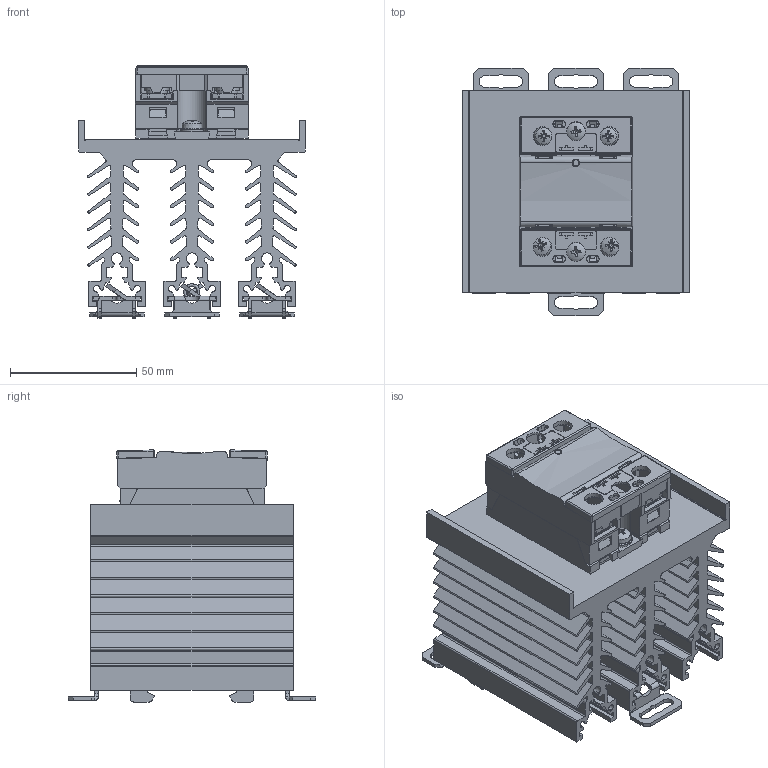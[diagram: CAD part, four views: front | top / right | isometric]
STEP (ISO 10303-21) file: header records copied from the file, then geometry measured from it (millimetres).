
FILE_DESCRIPTION(/* description */ (''),/* implementation_level */ '2;1');
FILE_NAME(/* name */ 'C:\Users\ysicot\Desktop\2D3D 690 A.stp',/* time_stamp */ '2023-10-19T10:56:41+02:00',/* author */ ('ysicot'),/* organization */ (''),/* preprocessor_version */ 'ST-DEVELOPER v17',/* originating_system */ 'Autodesk Inventor 2018',/* authorisation */ '');
FILE_SCHEMA (('CONFIG_CONTROL_DESIGN'));
Products named in the file (9): SO887940-WF108; SO8887940; 1LD31100; ressort; 20 26 508 A - WF108110; 1L114800; DIN 7985 (Z) - M4x10-Z; 1; Thermal PAD 5TH23
Assembly tree (12 placements, depth 3):
  SO887940-WF108
    SO8887940
    1LD31100  x4
    ressort
    20 26 508 A - WF108110
    1L114800  x2
      DIN 7985 (Z) - M4x10-Z
      1
    Thermal PAD 5TH23
Bounding box: 89.8 x 98.02 x 99.78 mm (x, y, z)
Volume: 234910.6 mm3; surface area: 147028.7 mm2
Topology: 12 solids, 13 shells, 2638 faces, 7747 edges, 5060 vertices
Faces by surface type: plane 1520, cylinder 596, cone 447, bspline 39, torus 22, sphere 14
Full cylindrical faces by diameter (mm): 2.35 x1, 2.9 x1, 3 x1, 3.242 x2, 3.3 x2, 3.621 x2, 3.704 x2, 3.8 x2, 4 x6, 4.567 x2, 4.6 x2, 4.7 x1, 5 x2, 7.4 x4, 9 x2
Entity records: 77504 total; most frequent: CARTESIAN_POINT 20160, ORIENTED_EDGE 12230, DIRECTION 11426, EDGE_CURVE 6115, VERTEX_POINT 3972, LINE 3898, VECTOR 3898, AXIS2_PLACEMENT_3D 3764
